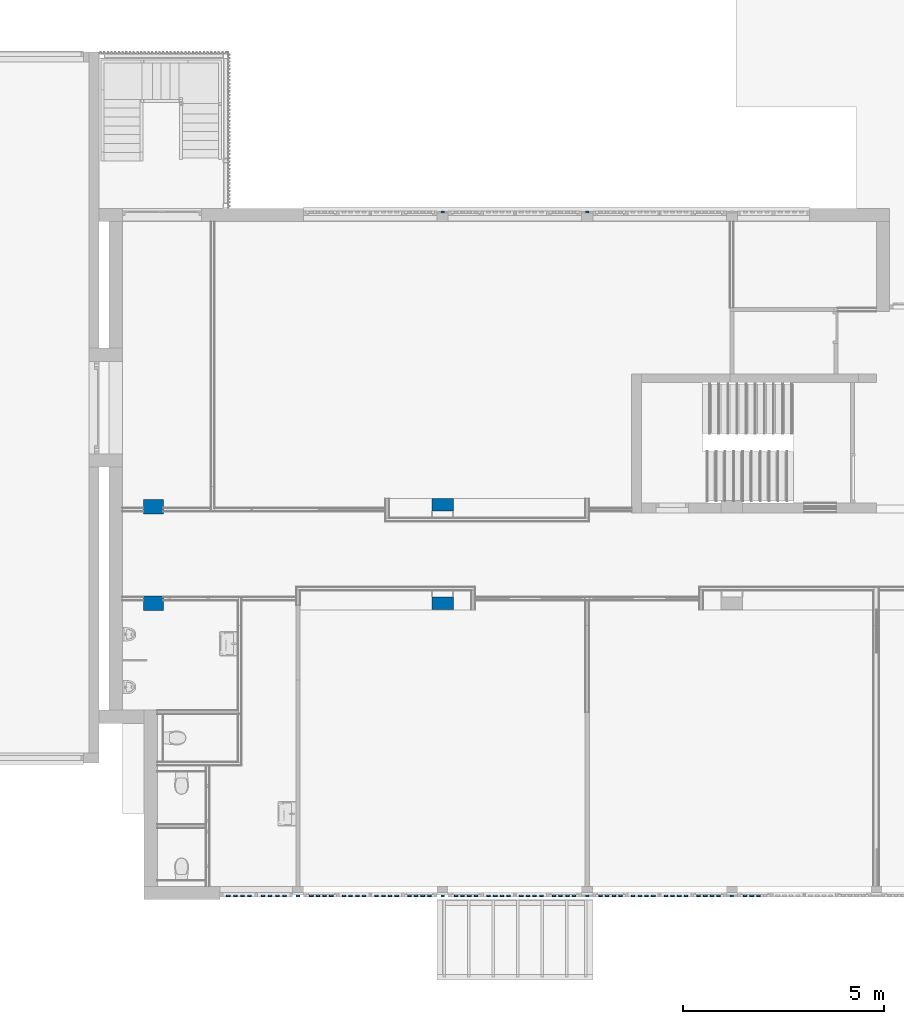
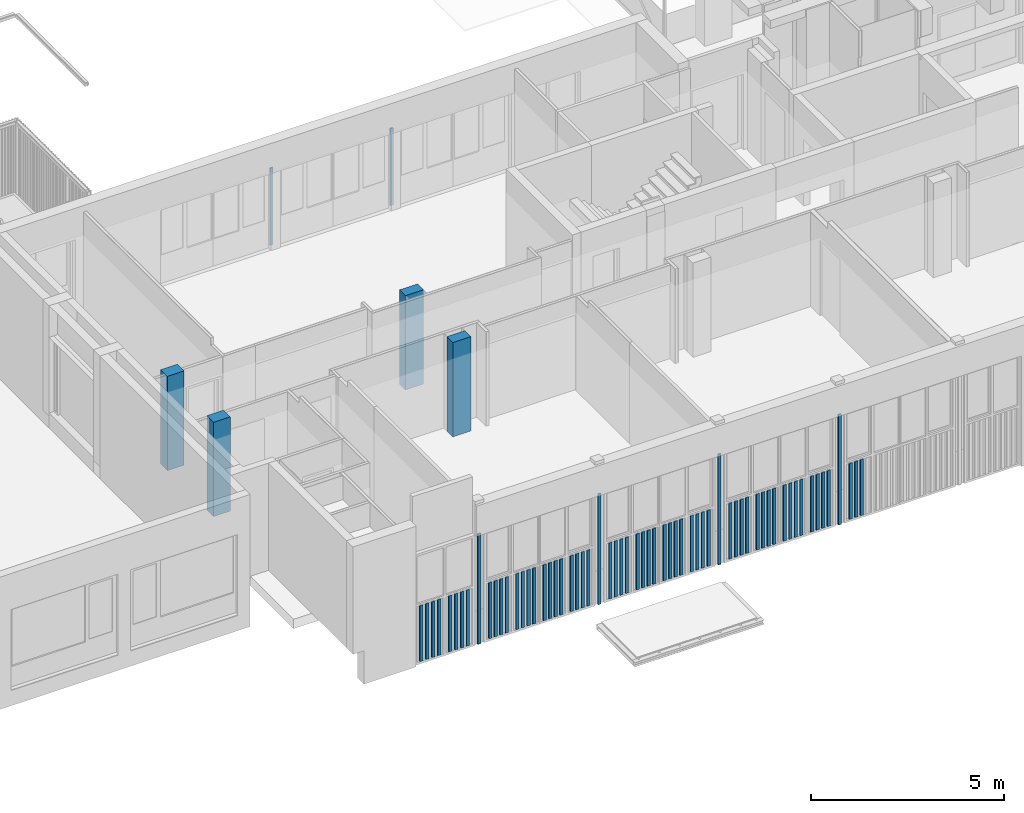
# One storey, part 13 of 117: 69 columns.
"""IFC2X3 building model written with IfcOpenShell, lengths in millimetres."""

from ifc_helpers import new_model, entity, si_unit, converted_unit, derived_unit, money_unit, direction, frame, origin_with_axes, place, context, subcontext, project, spatial, faceted_brep, material, type_object, element, save


model = new_model("IFC2X3")

# Units and contexts
model_context = context("Model", 3, precision=0.01, world=origin_with_axes(), true_north=direction((0.0, 1.0)))
body_context = subcontext(model_context, "Body", "Model", "MODEL_VIEW")
ifc_project = project(units=[si_unit("LENGTHUNIT", "METRE", prefix="MILLI"), si_unit("AREAUNIT", "SQUARE_METRE"), si_unit("VOLUMEUNIT", "CUBIC_METRE"), converted_unit("PLANEANGLEUNIT", "DEGREE", entity("IfcPlaneAngleMeasure", 0.0174532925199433), si_unit("PLANEANGLEUNIT", "RADIAN"), dimensions=[0, 0, 0, 0, 0, 0, 0]), money_unit("EUR"), converted_unit("TIMEUNIT", "Year", entity("IfcTimeMeasure", 31557600.0), si_unit("TIMEUNIT", "SECOND"), dimensions=[0, 0, 1, 0, 0, 0, 0]), si_unit("MASSUNIT", "GRAM", prefix="KILO"), si_unit("THERMODYNAMICTEMPERATUREUNIT", "DEGREE_CELSIUS"), si_unit("LUMINOUSINTENSITYUNIT", "LUMEN"), si_unit("ENERGYUNIT", "JOULE", prefix="MEGA"), derived_unit("THERMALCONDUCTANCEUNIT", [(si_unit("POWERUNIT", "WATT"), 1), (si_unit("LENGTHUNIT", "METRE"), -1), (si_unit("THERMODYNAMICTEMPERATUREUNIT", "KELVIN"), -1)]), derived_unit("SPECIFICHEATCAPACITYUNIT", [(si_unit("ENERGYUNIT", "JOULE"), 1), (si_unit("MASSUNIT", "GRAM", prefix="KILO"), -1), (si_unit("THERMODYNAMICTEMPERATUREUNIT", "KELVIN"), -1)]), derived_unit("MASSDENSITYUNIT", [(si_unit("MASSUNIT", "GRAM", prefix="KILO"), 1), (si_unit("VOLUMEUNIT", "CUBIC_METRE"), -1)])], contexts=[model_context])

# Site, building, storey
site_placement = place(None, origin_with_axes())
site = spatial("IfcSite", under=ifc_project, at=site_placement, Name="Site", CompositionType="ELEMENT")
building_placement = place(site_placement, origin_with_axes())
building = spatial("IfcBuilding", under=site, at=building_placement, Name="Naam gebouw", CompositionType="ELEMENT")
storey_placement = place(building_placement, frame((0.0, 0.0, 4150.0), z_axis=(0.0, 0.0, 1.0), x_axis=(1.0, 0.0, 0.0)))
storey = spatial("IfcBuildingStorey", under=building, at=storey_placement, Name="1e verdieping N", CompositionType="ELEMENT", Elevation=4150.0)

# Columns
ifc_material_1 = material(Name="Metaal - Staal C")
column_type_1 = type_object("IfcColumnType", Name="Metaal - Staal C 90 x 44", PredefinedType="COLUMN")
column_1_placement = place(storey_placement, frame((14399.99999999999, 3207.668707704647, -1060.0), z_axis=(0.0, 0.0, 1.0), x_axis=(1.0, 0.0, 0.0)))
element("IfcColumn", 1, at=column_1_placement, inside=storey, type_object=column_type_1, material=ifc_material_1, Name="_Kolom-x", ObjectType="COLUMN", context=body_context, shape_type="Brep", body=[
    faceted_brep([(44.99999999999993, -21.9999999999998, 17.63441479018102), (44.99999999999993, -17.00973599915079, 18.51433297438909), (44.99999999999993, -17.00973599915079, 28.51433297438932), (44.99999999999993, -15.00973599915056, 28.51433297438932), (44.99999999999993, -15.00973599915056, 16.83613371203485), (44.99999999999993, -21.9999999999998, 15.60356156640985), (44.99999999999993, -21.9999999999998, 0.0), (44.99999999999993, 21.9999999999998, 0.0), (44.99999999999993, 21.9999999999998, 3500.000000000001), (44.99999999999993, -21.9999999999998, 3500.000000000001), (-44.99999999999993, -17.00973599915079, 18.51433297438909), (-44.99999999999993, -21.9999999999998, 17.63441479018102), (-44.99999999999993, -17.00973599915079, 28.51433297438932), (-44.99999999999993, -15.00973599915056, 28.51433297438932), (-44.99999999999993, -15.00973599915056, 16.83613371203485), (-44.99999999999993, -21.9999999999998, 15.60356156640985), (-44.99999999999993, -21.9999999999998, 0.0), (-44.99999999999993, 21.9999999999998, 0.0), (-44.99999999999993, 21.9999999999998, 3500.000000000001), (-44.99999999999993, -21.9999999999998, 3500.000000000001)], [[[0, 1, 2, 3, 4, 5, 6, 7, 8, 9]], [[10, 1, 0, 11]], [[12, 2, 1, 10]], [[13, 3, 2, 12]], [[14, 4, 3, 13]], [[15, 5, 4, 14]], [[6, 5, 15, 16]], [[7, 6, 16, 17]], [[18, 8, 7, 17]], [[8, 18, 19, 9]], [[19, 11, 0, 9]], [[12, 10, 11, 19, 18, 17, 16, 15, 14, 13]]]),
])
column_2_placement = place(storey_placement, frame((10800.0, 3207.668707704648, -1060.0), z_axis=(0.0, 0.0, 1.0), x_axis=(1.0, 0.0, 0.0)))
element("IfcColumn", 2, at=column_2_placement, inside=storey, type_object=column_type_1, material=ifc_material_1, Name="_Kolom-x", ObjectType="COLUMN", context=body_context, shape_type="Brep", body=[
    faceted_brep([(44.99999999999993, -21.9999999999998, 17.63441479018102), (44.99999999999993, -17.00973599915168, 18.51433297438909), (44.99999999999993, -17.00973599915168, 28.51433297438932), (44.99999999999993, -15.00973599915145, 28.51433297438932), (44.99999999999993, -15.00973599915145, 16.83613371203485), (44.99999999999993, -21.9999999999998, 15.60356156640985), (44.99999999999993, -21.9999999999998, 0.0), (44.99999999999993, 21.9999999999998, 0.0), (44.99999999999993, 21.9999999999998, 3500.000000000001), (44.99999999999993, -21.9999999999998, 3500.000000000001), (-44.99999999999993, -17.00973599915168, 18.51433297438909), (-44.99999999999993, -21.9999999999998, 17.63441479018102), (-44.99999999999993, -17.00973599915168, 28.51433297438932), (-44.99999999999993, -15.00973599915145, 28.51433297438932), (-44.99999999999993, -15.00973599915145, 16.83613371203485), (-44.99999999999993, -21.9999999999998, 15.60356156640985), (-44.99999999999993, -21.9999999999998, 0.0), (-44.99999999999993, 21.9999999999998, 0.0), (-44.99999999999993, 21.9999999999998, 3500.000000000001), (-44.99999999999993, -21.9999999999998, 3500.000000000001)], [[[0, 1, 2, 3, 4, 5, 6, 7, 8, 9]], [[10, 1, 0, 11]], [[12, 2, 1, 10]], [[13, 3, 2, 12]], [[14, 4, 3, 13]], [[15, 5, 4, 14]], [[6, 5, 15, 16]], [[7, 6, 16, 17]], [[18, 8, 7, 17]], [[8, 18, 19, 9]], [[19, 11, 0, 9]], [[12, 10, 11, 19, 18, 17, 16, 15, 14, 13]]]),
])
column_3_placement = place(storey_placement, frame((7200.000000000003, 3207.668707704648, -1060.0), z_axis=(0.0, 0.0, 1.0), x_axis=(1.0, 0.0, 0.0)))
element("IfcColumn", 3, at=column_3_placement, inside=storey, type_object=column_type_1, material=ifc_material_1, Name="_Kolom-x", ObjectType="COLUMN", context=body_context, shape_type="Brep", body=[
    faceted_brep([(44.99999999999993, -21.9999999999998, 17.63441479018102), (44.99999999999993, -17.00973599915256, 18.51433297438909), (44.99999999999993, -17.00973599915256, 28.51433297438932), (44.99999999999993, -15.00973599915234, 28.51433297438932), (44.99999999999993, -15.00973599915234, 16.83613371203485), (44.99999999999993, -21.9999999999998, 15.60356156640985), (44.99999999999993, -21.9999999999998, 0.0), (44.99999999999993, 21.9999999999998, 0.0), (44.99999999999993, 21.9999999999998, 3500.000000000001), (44.99999999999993, -21.9999999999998, 3500.000000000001), (-45.00000000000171, -17.00973599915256, 18.51433297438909), (-44.99999999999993, -21.9999999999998, 17.63441479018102), (-45.00000000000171, -17.00973599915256, 28.51433297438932), (-45.00000000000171, -15.00973599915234, 28.51433297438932), (-45.00000000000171, -15.00973599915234, 16.83613371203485), (-44.99999999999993, -21.9999999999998, 15.60356156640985), (-44.99999999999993, -21.9999999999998, 0.0), (-44.99999999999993, 21.9999999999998, 0.0), (-44.99999999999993, 21.9999999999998, 3500.000000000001), (-44.99999999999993, -21.9999999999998, 3500.000000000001)], [[[0, 1, 2, 3, 4, 5, 6, 7, 8, 9]], [[10, 1, 0, 11]], [[12, 2, 1, 10]], [[13, 3, 2, 12]], [[14, 4, 3, 13]], [[15, 5, 4, 14]], [[6, 5, 15, 16]], [[7, 6, 16, 17]], [[18, 8, 7, 17]], [[8, 18, 19, 9]], [[19, 11, 0, 9]], [[12, 10, 11, 19, 18, 17, 16, 15, 14, 13]]]),
])
column_4_placement = place(storey_placement, frame((3600.000000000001, 3207.668707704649, -1060.0), z_axis=(0.0, 0.0, 1.0), x_axis=(1.0, 0.0, 0.0)))
element("IfcColumn", 4, at=column_4_placement, inside=storey, type_object=column_type_1, material=ifc_material_1, Name="_Kolom-x", ObjectType="COLUMN", context=body_context, shape_type="Brep", body=[
    faceted_brep([(44.99999999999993, -21.9999999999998, 17.63441479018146), (44.99999999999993, -17.00973599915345, 18.51433297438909), (44.99999999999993, -17.00973599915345, 28.51433297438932), (44.99999999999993, -15.00973599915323, 28.51433297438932), (44.99999999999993, -15.00973599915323, 16.83613371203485), (44.99999999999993, -21.9999999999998, 15.6035615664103), (44.99999999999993, -21.9999999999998, 0.0), (44.99999999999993, 21.9999999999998, 0.0), (44.99999999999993, 21.9999999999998, 3500.000000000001), (44.99999999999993, -21.9999999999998, 3500.000000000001), (-44.99999999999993, -17.00973599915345, 18.51433297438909), (-44.99999999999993, -21.9999999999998, 17.63441479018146), (-44.99999999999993, -17.00973599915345, 28.51433297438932), (-44.99999999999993, -15.00973599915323, 28.51433297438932), (-44.99999999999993, -15.00973599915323, 16.83613371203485), (-44.99999999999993, -21.9999999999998, 15.6035615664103), (-44.99999999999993, -21.9999999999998, 0.0), (-44.99999999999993, 21.9999999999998, 0.0), (-44.99999999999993, 21.9999999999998, 3500.000000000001), (-44.99999999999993, -21.9999999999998, 3500.000000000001)], [[[0, 1, 2, 3, 4, 5, 6, 7, 8, 9]], [[10, 1, 0, 11]], [[12, 2, 1, 10]], [[13, 3, 2, 12]], [[14, 4, 3, 13]], [[15, 5, 4, 14]], [[6, 5, 15, 16]], [[7, 6, 16, 17]], [[18, 8, 7, 17]], [[8, 18, 19, 9]], [[19, 11, 0, 9]], [[12, 10, 11, 19, 18, 17, 16, 15, 14, 13]]]),
])
for number, where, z_axis, x_axis, name in (
    (5, (15061.25520614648, 3207.668707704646, -993.0000000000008), (0.0, 0.0, 1.0), (1.0, 0.0, 0.0), "_Kolom-x"),
    (6, (14729.03298392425, 3207.668707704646, -993.0000000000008), (0.0, 0.0, 1.0), (1.0, 0.0, 0.0), "_Kolom-x"),
    (7, (14895.14409503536, 3207.668707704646, -993.0000000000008), (0.0, 0.0, 1.0), (1.0, 0.0, 0.0), "_Kolom-x"),
    (8, (14070.86631725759, 3207.668707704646, -993.0000000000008), (0.0, 0.0, 1.0), (1.0, 0.0, 0.0), "_Kolom-x"),
    (9, (13904.75520614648, 3207.668707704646, -993.0000000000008), (0.0, 0.0, 1.0), (1.0, 0.0, 0.0), "_Kolom-x"),
    (10, (13738.64409503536, 3207.668707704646, -993.0000000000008), (0.0, 0.0, 1.0), (1.0, 0.0, 0.0), "_Kolom-x"),
    (11, (13572.53298392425, 3207.668707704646, -993.0000000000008), (0.0, 0.0, 1.0), (1.0, 0.0, 0.0), "_Kolom-x"),
    (12, (13256.36631725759, 3207.668707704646, -993.0000000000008), (0.0, 0.0, 1.0), (1.0, 0.0, 0.0), "_Kolom-x"),
    (13, (13090.25520614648, 3207.668707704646, -993.0000000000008), (0.0, 0.0, 1.0), (1.0, 0.0, 0.0), "_Kolom-x"),
    (14, (12758.03298392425, 3207.668707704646, -993.0000000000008), (0.0, 0.0, 1.0), (1.0, 0.0, 0.0), "_Kolom-x"),
    (15, (12441.86631725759, 3207.668707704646, -993.0000000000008), (0.0, 0.0, 1.0), (1.0, 0.0, 0.0), "_Kolom-x"),
    (16, (12275.75520614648, 3207.668707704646, -993.0000000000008), (0.0, 0.0, 1.0), (1.0, 0.0, 0.0), "_Kolom-x"),
    (17, (12109.64409503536, 3207.668707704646, -993.0000000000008), (0.0, 0.0, 1.0), (1.0, 0.0, 0.0), "_Kolom-x"),
    (18, (12924.14409503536, 3207.668707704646, -993.0000000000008), (0.0, 0.0, 1.0), (1.0, 0.0, 0.0), "_Kolom-x"),
    (19, (11943.53298392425, 3207.668707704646, -993.0000000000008), (0.0, 0.0, 1.0), (1.0, 0.0, 0.0), "_Kolom-x"),
    (20, (11627.36631725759, 3207.668707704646, -993.0000000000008), (0.0, 0.0, 1.0), (1.0, 0.0, 0.0), "_Kolom-x"),
    (21, (11461.25520614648, 3207.668707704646, -993.0000000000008), (0.0, 0.0, 1.0), (1.0, 0.0, 0.0), "_Kolom-x"),
    (22, (11129.03298392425, 3207.668707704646, -993.0000000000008), (0.0, 0.0, 1.0), (1.0, 0.0, 0.0), "_Kolom-x"),
    (23, (11295.14409503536, 3207.668707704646, -993.0000000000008), (0.0, 0.0, 1.0), (1.0, 0.0, 0.0), "_Kolom-x"),
    (24, (10470.86631725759, 3207.668707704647, -993.0000000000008), (0.0, 0.0, 1.0), (1.0, 0.0, 0.0), "_Kolom-x"),
    (25, (10138.64409503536, 3207.668707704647, -993.0000000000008), (0.0, 0.0, 1.0), (1.0, 0.0, 0.0), "_Kolom-x"),
    (26, (9972.532983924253, 3207.668707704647, -993.0000000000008), (0.0, 0.0, 1.0), (1.0, 0.0, 0.0), "_Kolom-x"),
    (27, (10304.75520614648, 3207.668707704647, -993.0000000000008), (0.0, 0.0, 1.0), (1.0, 0.0, 0.0), "_Kolom-x"),
    (28, (9656.366317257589, 3207.668707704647, -993.0000000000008), (0.0, 0.0, 1.0), (1.0, 0.0, 0.0), "_Kolom-x"),
    (29, (9490.25520614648, 3207.668707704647, -993.0000000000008), (0.0, 0.0, 1.0), (1.0, 0.0, 0.0), "_Kolom-x"),
    (30, (9324.144095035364, 3207.668707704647, -993.0000000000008), (0.0, 0.0, 1.0), (1.0, 0.0, 0.0), "_Kolom-x"),
    (31, (8841.86631725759, 3207.668707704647, -993.0000000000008), (0.0, 0.0, 1.0), (1.0, 0.0, 0.0), "_Kolom-x"),
    (32, (8675.75520614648, 3207.668707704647, -993.0000000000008), (0.0, 0.0, 1.0), (1.0, 0.0, 0.0), "_Kolom-x"),
    (33, (9158.032983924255, 3207.668707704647, -993.0000000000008), (0.0, 0.0, 1.0), (1.0, 0.0, 0.0), "_Kolom-x"),
    (34, (8509.644095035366, 3207.668707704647, -993.0000000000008), (0.0, 0.0, 1.0), (1.0, 0.0, 0.0), "_Kolom-x"),
    (35, (8027.36631725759, 3207.668707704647, -993.0000000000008), (0.0, 0.0, 1.0), (1.0, 0.0, 0.0), "_Kolom-x"),
    (36, (7861.255206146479, 3207.668707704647, -993.0000000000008), (0.0, 0.0, 1.0), (1.0, 0.0, 0.0), "_Kolom-x"),
    (37, (8343.532983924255, 3207.668707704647, -993.0000000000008), (0.0, 0.0, 1.0), (1.0, 0.0, 0.0), "_Kolom-x"),
    (38, (7695.144095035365, 3207.668707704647, -993.0000000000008), (0.0, 0.0, 1.0), (1.0, 0.0, 0.0), "_Kolom-x"),
    (39, (6870.916666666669, 3207.668707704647, -993.0000000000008), (0.0, 0.0, 1.0), (1.0, 0.0, 0.0), "_Kolom-x"),
    (40, (7529.032983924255, 3207.668707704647, -993.0000000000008), (0.0, 0.0, 1.0), (1.0, 0.0, 0.0), "_Kolom-x"),
    (41, (6538.694444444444, 3207.668707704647, -993.0000000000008), (0.0, 0.0, 1.0), (1.0, 0.0, 0.0), "_Kolom-x"),
    (42, (6704.805555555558, 3207.668707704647, -993.0000000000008), (0.0, 0.0, 1.0), (1.0, 0.0, 0.0), "_Kolom-x"),
    (43, (6372.583333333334, 3207.668707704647, -993.0000000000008), (0.0, 0.0, 1.0), (1.0, 0.0, 0.0), "_Kolom-x"),
    (44, (6056.41666666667, 3207.668707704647, -993.0000000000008), (0.0, 0.0, 1.0), (1.0, 0.0, 0.0), "_Kolom-x"),
    (45, (5890.305555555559, 3207.668707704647, -993.0000000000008), (0.0, 0.0, 1.0), (1.0, 0.0, 0.0), "_Kolom-x"),
    (46, (5724.194444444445, 3207.668707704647, -993.0000000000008), (0.0, 0.0, 1.0), (1.0, 0.0, 0.0), "_Kolom-x"),
    (47, (5558.083333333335, 3207.668707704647, -993.0000000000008), (0.0, 0.0, 1.0), (1.0, 0.0, 0.0), "_Kolom-x"),
    (48, (5241.916666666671, 3207.668707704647, -993.0000000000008), (0.0, 0.0, 1.0), (1.0, 0.0, 0.0), "_Kolom-x"),
    (49, (5075.80555555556, 3207.668707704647, -993.0000000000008), (0.0, 0.0, 1.0), (1.0, 0.0, 0.0), "_Kolom-x"),
    (50, (4909.694444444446, 3207.668707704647, -993.0000000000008), (0.0, 0.0, 1.0), (1.0, 0.0, 0.0), "_Kolom-x"),
    (51, (4743.583333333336, 3207.668707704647, -993.0000000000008), (0.0, 0.0, 1.0), (1.0, 0.0, 0.0), "_Kolom-x"),
    (52, (4427.416666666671, 3207.668707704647, -993.0000000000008), (0.0, 0.0, 1.0), (1.0, 0.0, 0.0), "_Kolom-x"),
    (53, (4261.30555555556, 3207.668707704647, -993.0000000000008), (0.0, 0.0, 1.0), (1.0, 0.0, 0.0), "_Kolom-x"),
    (54, (4095.194444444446, 3207.668707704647, -993.0000000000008), (0.0, 0.0, 1.0), (1.0, 0.0, 0.0), "_Kolom-x"),
    (55, (3929.083333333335, 3207.668707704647, -993.0000000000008), (0.0, 0.0, 1.0), (1.0, 0.0, 0.0), "_Kolom-x"),
    (56, (3262.24875968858, 3207.668707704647, -993.0000000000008), (0.0, 0.0, 1.0), (1.0, 0.0, 0.0), "_Kolom-x"),
    (57, (3084.582093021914, 3207.668707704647, -993.0000000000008), (0.0, 0.0, 1.0), (1.0, 0.0, 0.0), "_Kolom-x"),
    (58, (2906.915426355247, 3207.668707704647, -993.0000000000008), (0.0, 0.0, 1.0), (1.0, 0.0, 0.0), "_Kolom-x"),
    (59, (2729.248759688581, 3207.668707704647, -993.0000000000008), (0.0, 0.0, 1.0), (1.0, 0.0, 0.0), "_Kolom-x"),
    (60, (2395.74875968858, 3207.668707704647, -993.0000000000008), (0.0, 0.0, 1.0), (1.0, 0.0, 0.0), "_Kolom-x"),
    (61, (2218.082093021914, 3207.668707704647, -993.0000000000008), (0.0, 0.0, 1.0), (1.0, 0.0, 0.0), "_Kolom-x"),
    (62, (2040.415426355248, 3207.668707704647, -993.0000000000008), (0.0, 0.0, 1.0), (1.0, 0.0, 0.0), "_Kolom-x"),
    (63, (1862.748759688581, 3207.668707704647, -993.0000000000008), (0.0, 0.0, 1.0), (1.0, 0.0, 0.0), "_Kolom-x"),
):
    element("IfcColumn", number, at=place(storey_placement, frame(where, z_axis=z_axis, x_axis=x_axis)), inside=storey, type_object=column_type_1, material=ifc_material_1, Name=name, ObjectType="COLUMN", context=body_context, shape_type="Brep", body=[
        faceted_brep([(-44.99999999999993, -21.9999999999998, 1776.000000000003), (-44.99999999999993, -21.9999999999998, 0.0), (44.99999999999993, -21.9999999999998, 0.0), (44.99999999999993, -21.9999999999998, 1776.000000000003), (-44.99999999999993, 21.9999999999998, 1776.000000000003), (-44.99999999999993, 21.9999999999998, 0.0), (44.99999999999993, 21.9999999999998, 0.0), (44.99999999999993, 21.9999999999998, 1776.000000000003)], [[[0, 1, 2, 3]], [[4, 5, 1, 0]], [[2, 1, 5, 6]], [[3, 2, 6, 7]], [[4, 0, 3, 7]], [[7, 6, 5, 4]]]),
    ])
column_5_placement = place(storey_placement, frame((7199.999999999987, 20233.85731192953, 0.0), z_axis=(0.0, 0.0, 1.0), x_axis=(-1.0, 0.0, 0.0)))
element("IfcColumn", 64, at=column_5_placement, inside=storey, type_object=column_type_1, material=ifc_material_1, Name="_Kolom-x", ObjectType="COLUMN", context=body_context, shape_type="Brep", body=[
    faceted_brep([(-44.99999999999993, -15.04634950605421, 28.51433297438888), (-44.99999999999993, -17.0463495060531, 28.51433297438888), (-44.99999999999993, -17.0463495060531, 18.51433297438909), (-44.99999999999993, -21.99999999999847, 17.64087073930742), (-44.99999999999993, -21.99999999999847, 2440.000000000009), (-44.99999999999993, 21.99999999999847, 2440.000000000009), (-44.99999999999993, 21.99999999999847, 0.0), (-44.99999999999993, -21.99999999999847, 0.0), (-44.99999999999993, -21.99999999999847, 15.61001751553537), (-44.99999999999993, -15.04634950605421, 16.83613371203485), (44.99999999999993, -17.04633997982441, 28.51433297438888), (44.99999999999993, -15.04633997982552, 28.51433297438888), (44.99999999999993, -17.04633997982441, 18.51433297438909), (44.99999999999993, -21.99999999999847, 17.64086905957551), (44.99999999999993, -21.99999999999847, 2440.000000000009), (44.99999999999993, 21.99999999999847, 2440.000000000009), (44.99999999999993, 21.99999999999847, 0.0), (44.99999999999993, -21.99999999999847, 0.0), (44.99999999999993, -21.99999999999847, 15.61001583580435), (44.99999999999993, -15.04633997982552, 16.83613371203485)], [[[0, 1, 2, 3, 4, 5, 6, 7, 8, 9]], [[10, 1, 0, 11]], [[12, 2, 1, 10]], [[12, 13, 3, 2]], [[4, 3, 13, 14]], [[15, 5, 4, 14]], [[5, 15, 16, 6]], [[16, 17, 7, 6]], [[17, 18, 8, 7]], [[19, 9, 8, 18]], [[11, 0, 9, 19]], [[11, 19, 18, 17, 16, 15, 14, 13, 12, 10]]]),
])
column_6_placement = place(storey_placement, frame((10799.99865604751, 20233.8744985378, 0.0), z_axis=(0.0, 0.0, 1.0), x_axis=(-1.0, 0.0, 0.0)))
element("IfcColumn", 65, at=column_6_placement, inside=storey, type_object=column_type_1, material=ifc_material_1, Name="_Kolom-x", ObjectType="COLUMN", context=body_context, shape_type="Brep", body=[
    faceted_brep([(-44.99999999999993, -15.02954394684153, 28.51433297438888), (-44.99999999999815, -17.02954394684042, 28.51433297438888), (-44.99999999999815, -17.02954394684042, 18.51433297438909), (-44.99999999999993, -21.99999999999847, 17.63790746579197), (-44.99999999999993, -21.99999999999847, 2440.000000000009), (-44.99999999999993, 21.99999999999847, 2440.000000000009), (-44.99999999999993, 21.99999999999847, 0.0), (-44.99999999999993, -21.99999999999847, 0.0), (-44.99999999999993, -21.99999999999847, 15.6070542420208), (-44.99999999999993, -15.02954394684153, 16.83613371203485), (44.99999999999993, -17.02953442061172, 28.51433297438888), (44.99999999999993, -15.02953442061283, 28.51433297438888), (44.99999999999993, -17.02953442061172, 18.51433297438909), (44.99999999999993, -21.99999999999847, 17.63790578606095), (44.99999999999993, -21.99999999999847, 2440.000000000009), (44.99999999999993, 21.99999999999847, 2440.000000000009), (44.99999999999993, 21.99999999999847, 0.0), (44.99999999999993, -21.99999999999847, 0.0), (44.99999999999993, -21.99999999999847, 15.60705256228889), (44.99999999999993, -15.02953442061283, 16.83613371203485)], [[[0, 1, 2, 3, 4, 5, 6, 7, 8, 9]], [[10, 1, 0, 11]], [[12, 2, 1, 10]], [[12, 13, 3, 2]], [[4, 3, 13, 14]], [[15, 5, 4, 14]], [[5, 15, 16, 6]], [[16, 17, 7, 6]], [[17, 18, 8, 7]], [[19, 9, 8, 18]], [[11, 0, 9, 19]], [[11, 19, 18, 17, 16, 15, 14, 13, 12, 10]]]),
])
ifc_material_2 = material(Name="ALG - CONSTRUCTIEF")
column_type_2 = type_object("IfcColumnType", Name="ALG - CONSTRUCTIEF 500 x 355", PredefinedType="COLUMN")
column_7_placement = place(storey_placement, frame((0.0, 12895.91242510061, -99.99999999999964), z_axis=(0.0, 0.0, 1.0), x_axis=(1.0, 0.0, 0.0)))
element("IfcColumn", 66, at=column_7_placement, inside=storey, type_object=column_type_2, material=ifc_material_2, Name="_Kolom-x", ObjectType="COLUMN", context=body_context, shape_type="Brep", body=[
    faceted_brep([(249.9999999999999, -177.4999999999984, 3090.000000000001), (249.9999999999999, -177.4999999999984, 99.99999999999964), (249.9999999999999, 177.4999999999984, 99.99999999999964), (249.9999999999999, 177.4999999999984, 3090.000000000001), (-250.0000000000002, -177.4999999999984, 3090.000000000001), (-250.0000000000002, -177.4999999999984, 99.99999999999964), (-250.0000000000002, 177.4999999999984, 99.99999999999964), (-250.0000000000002, 177.4999999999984, 3090.000000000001)], [[[0, 1, 2, 3]], [[4, 5, 1, 0]], [[5, 6, 2, 1]], [[3, 2, 6, 7]], [[4, 0, 3, 7]], [[7, 6, 5, 4]]]),
])
column_8_placement = place(storey_placement, frame((0.0, 10495.91242510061, -99.99999999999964), z_axis=(0.0, 0.0, 1.0), x_axis=(1.0, 0.0, 0.0)))
element("IfcColumn", 67, at=column_8_placement, inside=storey, type_object=column_type_2, material=ifc_material_2, Name="_Kolom-x", ObjectType="COLUMN", context=body_context, shape_type="Brep", body=[
    faceted_brep([(250.0, -177.500000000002, 3090.000000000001), (250.0, -177.500000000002, 99.99999999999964), (250.0, 177.500000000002, 99.99999999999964), (250.0, 177.500000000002, 3090.000000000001), (-250.0, -177.500000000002, 3090.000000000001), (-250.0, -177.500000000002, 99.99999999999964), (-250.0, 177.500000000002, 99.99999999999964), (-250.0, 177.500000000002, 3090.000000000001)], [[[0, 1, 2, 3]], [[4, 5, 1, 0]], [[5, 6, 2, 1]], [[3, 2, 6, 7]], [[4, 0, 3, 7]], [[7, 6, 5, 4]]]),
])
column_type_3 = type_object("IfcColumnType", Name="ALG - CONSTRUCTIEF 540 x 310", PredefinedType="COLUMN")
for number, where, z_axis, x_axis, name in (
    (68, (7199.999999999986, 12945.85635739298, -99.99999999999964), (0.0, 0.0, 1.0), (1.0, 0.0, 0.0), "_Kolom-x"),
    (69, (7200.0, 10495.91242510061, -99.99999999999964), (0.0, 0.0, 1.0), (1.0, 0.0, 0.0), "_Kolom-x"),
):
    element("IfcColumn", number, at=place(storey_placement, frame(where, z_axis=z_axis, x_axis=x_axis)), inside=storey, type_object=column_type_3, material=ifc_material_2, Name=name, ObjectType="COLUMN", context=body_context, shape_type="Brep", body=[
        faceted_brep([(269.9999999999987, -155.0000000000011, 3090.000000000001), (269.9999999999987, -155.0000000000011, 99.99999999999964), (269.9999999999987, 155.0000000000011, 99.99999999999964), (269.9999999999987, 155.0000000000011, 3090.000000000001), (-270.0000000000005, -155.0000000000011, 3090.000000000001), (-270.0000000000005, -155.0000000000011, 99.99999999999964), (-270.0000000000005, 155.0000000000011, 99.99999999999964), (-270.0000000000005, 155.0000000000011, 3090.000000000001)], [[[0, 1, 2, 3]], [[4, 5, 1, 0]], [[5, 6, 2, 1]], [[3, 2, 6, 7]], [[4, 0, 3, 7]], [[7, 6, 5, 4]]]),
    ])

save(model, "model.ifc")
